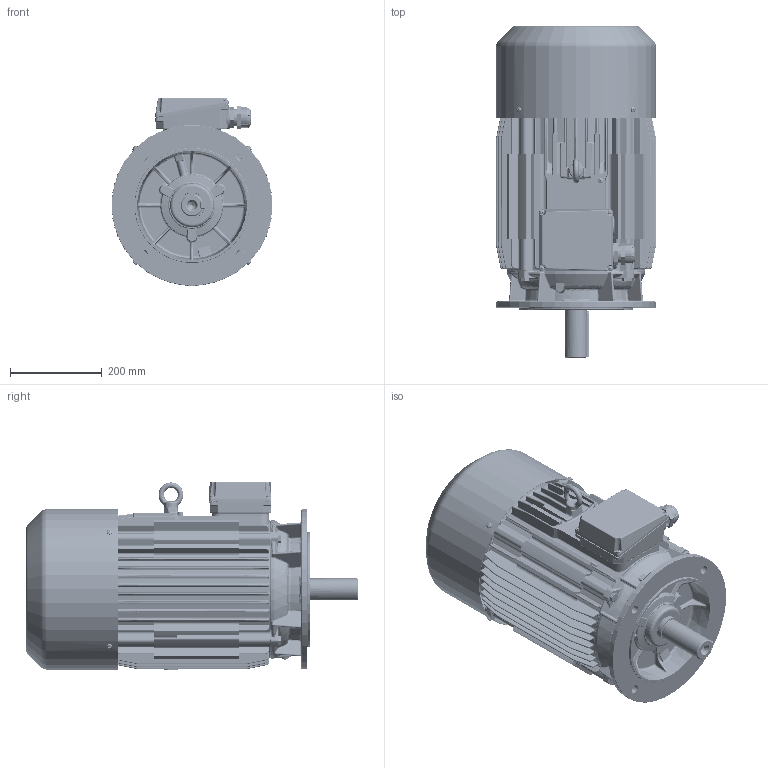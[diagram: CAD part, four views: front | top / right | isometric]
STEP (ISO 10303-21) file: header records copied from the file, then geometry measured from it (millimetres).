
FILE_DESCRIPTION(/* description */ ('Unknown'),/* implementation_level */ '2;1');
FILE_NAME(/* name */ 'S-216-01-2021',/* time_stamp */ '2021-07-15T08:38:58+02:00',/* author */ ('Unknown'),/* organization */ ('Unknown'),/* preprocessor_version */ 'ST-DEVELOPER v16.7',/* originating_system */ 'DEX',/* authorisation */ $);
FILE_SCHEMA (('AUTOMOTIVE_DESIGN {1 0 10303 214 3 1 1}'));
Products named in the file (37): S-216-01-2021; 6205-001-01_oa_0; Bearing_DIN_625_1_1989_6311_v12.00; PLg-69-19_4; 6110-004-10; AB 14x9x100; zestawienie skrzynki 160,180 ; D³awik M40; Uszczelka M40; Nakrêtka M40; SDh-19-56_6; RDg-59-12; Screw_DIN_EN_ISO_7045_M6x16_H_v12.00; QDg-53-05_1 z uszczelk¹; QDg-53-05_1; SDg-53-03_2 Sg 160-180; Screw_DIN_EN_ISO_7045_M5x20_H_v12.00; Screw_DIN_EN_ISO_7045_M6x20_H_v12.00; Washer_DIN_127_B_6_v14.00; Washer_DIN_EN_ISO_7092_2000_6.0_v12.00; QDg-53-29_1; Œruby z uchem 82472_M12; Screw_DIN_EN_24017_M12x40_v12.00; Screw_DIN_EN_ISO_4762_M12x40_v14.00; kad_EGA; kadlub do s-216_oa_1; Screw_DIN_EN_ISO_7045_M6x10_H_v12.00; SPg-39-66_poz.6; M6; Screw_DIN_EN_ISO_7045_M6x14_H_v12.00; SNG-49-38; PVg-69-06_16; 3SIE180M2; RVg-69-243_2
Assembly tree (53 placements, depth 4):
  S-216-01-2021
    6205-001-01_oa_0
    Bearing_DIN_625_1_1989_6311_v12.00  x2
    PLg-69-19_4
    6110-004-10
    AB 14x9x100
    zestawienie skrzynki 160,180 
      D³awik M40
        Uszczelka M40
        D³awik M40
        Nakrêtka M40
      SDh-19-56_6
      RDg-59-12
      Screw_DIN_EN_ISO_7045_M6x16_H_v12.00  x3
      QDg-53-05_1 z uszczelk¹
        QDg-53-05_1
        SDg-53-03_2 Sg 160-180
      Screw_DIN_EN_ISO_7045_M5x20_H_v12.00  x4
      Screw_DIN_EN_ISO_7045_M6x20_H_v12.00
      Washer_DIN_127_B_6_v14.00
      Washer_DIN_EN_ISO_7092_2000_6.0_v12.00  x2
      QDg-53-29_1
    Œruby z uchem 82472_M12
    Screw_DIN_EN_24017_M12x40_v12.00  x4
    Screw_DIN_EN_ISO_4762_M12x40_v14.00  x4
    kad_EGA
      kadlub do s-216_oa_1
    Screw_DIN_EN_ISO_7045_M6x10_H_v12.00  x4
    SPg-39-66_poz.6
    M6
      Washer_DIN_EN_ISO_7092_2000_6.0_v12.00  x2
      Washer_DIN_127_B_6_v14.00
      Screw_DIN_EN_ISO_7045_M6x14_H_v12.00
    SNG-49-38
    PVg-69-06_16
    3SIE180M2
    RVg-69-243_2
Bounding box: 350 x 723 x 410.32 mm (x, y, z)
Volume: 25599549.4 mm3; surface area: 3804426.6 mm2
Topology: 68 solids, 86 shells, 9672 faces, 25285 edges, 15611 vertices
Faces by surface type: cylinder 3327, plane 3270, bspline 1942, torus 684, cone 308, sphere 141
Full cylindrical faces by diameter (mm): 3 x8, 4 x1, 4.2 x4, 4.917 x11, 5 x5, 5.3 x4, 5.5 x4, 6 x9, 6.4 x8, 6.5 x1, 6.8 x1, 7 x2, 8 x1, 9 x1, 9.4 x1, 9.5 x4, 9.853 x4, 10 x4, 10.106 x18, 11 x4, 12 x22, 13.5 x8, 14.5 x1, 16 x1, 16.63 x4, 17 x1, 18 x4, 19 x4, 20 x1, 23.5 x2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
Entity records: 407315 total; most frequent: CARTESIAN_POINT 153962, ORIENTED_EDGE 47394, DIRECTION 42730, EDGE_CURVE 23697, AXIS2_PLACEMENT_3D 16143, VERTEX_POINT 14959, FACE_BOUND 10664, EDGE_LOOP 10633
